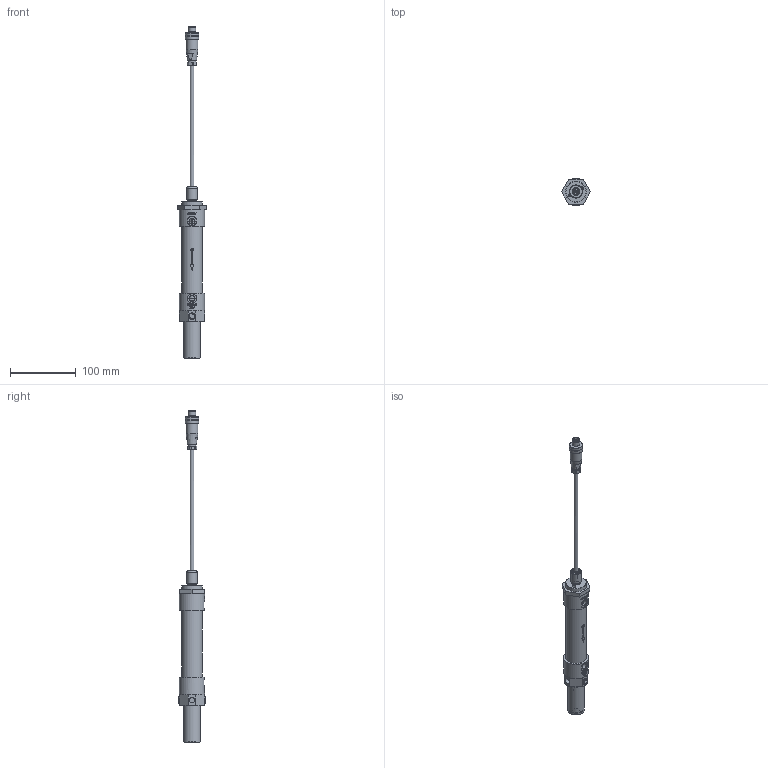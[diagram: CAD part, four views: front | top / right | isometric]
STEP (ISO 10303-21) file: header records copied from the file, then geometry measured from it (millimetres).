
FILE_DESCRIPTION(/* description */ ('ASSY,LVDT,22MM,CLAMP MOUNT,100MM,S2,NHP'),/* implementation_level */ '2;1');
FILE_NAME(/* name */ 'C:\temp\STP\ASSY,LVDT,22MM,CLAMP MOUNT,100MM,S2,NHP.stp',/* time_stamp */ '2016-03-30T11:39:45-04:00',/* author */ ('Simon.Britton'),/* organization */ (''),/* preprocessor_version */ 'ST-DEVELOPER v15.2',/* originating_system */ 'Autodesk Inventor 2014',/* authorisation */ '');
FILE_SCHEMA (('AUTOMOTIVE_DESIGN { 1 0 10303 214 3 1 1 }'));
Products named in the file (1): ASSY,LVDT,22MM,CLAMP MOUNT,100MM,S2,NHP
Bounding box: 43.99 x 42.1 x 504.8 mm (x, y, z)
Volume: 147835.6 mm3; surface area: 92657.6 mm2
Topology: 3 solids, 18 shells, 1304 faces, 3287 edges, 2155 vertices
Faces by surface type: plane 559, bspline 356, cylinder 263, cone 95, torus 26, sphere 5
Full cylindrical faces by diameter (mm): 0.217 x1, 1 x5, 1.5 x1, 1.567 x2, 1.587 x3, 2.381 x10, 2.79 x3, 3 x3, 3.15 x2, 3.175 x1, 3.242 x1, 3.81 x1, 4 x3, 4.763 x2, 5.7 x1, 6 x2, 6.35 x1, 7 x1, 8 x1, 8.3 x1, 8.566 x1, 8.731 x4, 9.459 x2, 9.525 x2, 10 x2, 10.2 x1, 10.5 x1, 11.113 x2, 12 x2, 12.01 x1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
Entity records: 116847 total; most frequent: CARTESIAN_POINT 88238, ORIENTED_EDGE 5918, DIRECTION 4474, EDGE_CURVE 2949, VERTEX_POINT 2034, EDGE_LOOP 1711, AXIS2_PLACEMENT_3D 1655, STYLED_ITEM 1306
